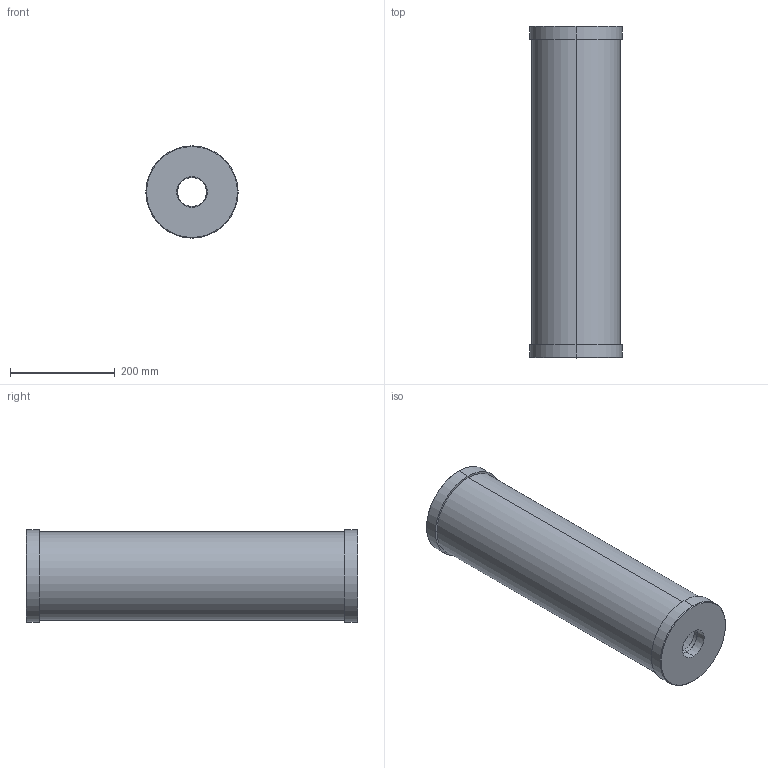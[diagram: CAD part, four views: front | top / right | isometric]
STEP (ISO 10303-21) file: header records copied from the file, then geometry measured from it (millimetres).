
FILE_DESCRIPTION (( 'STEP AP203' ), '1' );
FILE_NAME ('CC10000_P_NPT.STEP', '2016-03-21T09:05:37', ( '' ), ( '' ), 'SwSTEP 2.0', 'SolidWorks 2014', '' );
FILE_SCHEMA (( 'CONFIG_CONTROL_DESIGN' ));
Length unit declared in the file: inch
Products named in the file (2): CC10000_P_NPT
Bounding box: 176.53 x 635 x 176.53 mm (x, y, z)
Volume: 3889576.1 mm3; surface area: 698140.1 mm2
Topology: 1 solids, 1 shells, 28 faces, 56 edges, 36 vertices
Faces by surface type: cylinder 12, cone 8, plane 8
Entity records: 905 total; most frequent: DIRECTION 152, CARTESIAN_POINT 122, ORIENTED_EDGE 112, AXIS2_PLACEMENT_3D 66, EDGE_CURVE 56, EDGE_LOOP 36, CIRCLE 36, VERTEX_POINT 36
